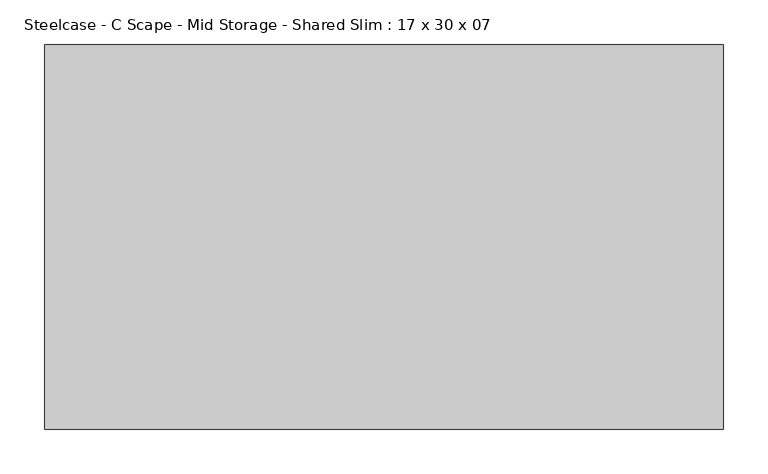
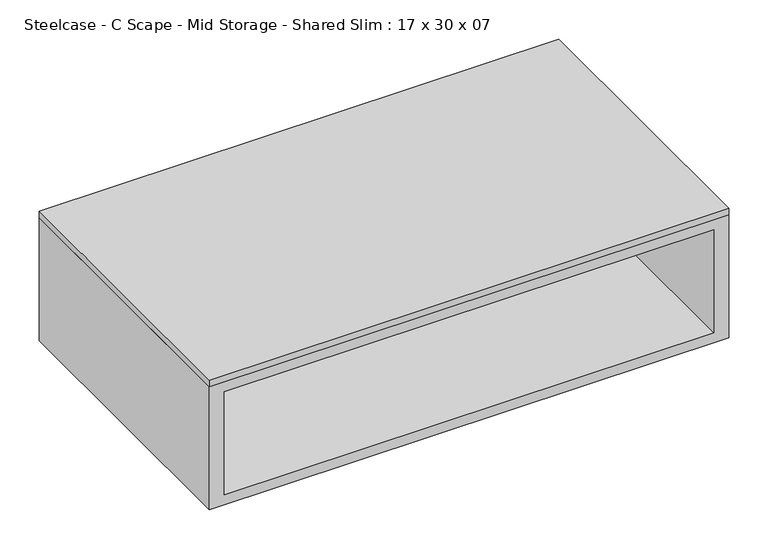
"""IFC4 building model written with IfcOpenShell, lengths in millimetres: furniture geometry, Steelcase - C Scape - Mid Storage - Shared Slim : 17 x 30 x 07."""

from ifc_helpers import new_model, si_unit, frame, origin, place, context, project, spatial, polyline, outline, extrude, source, transform, mapped, element, save


def steelcase_c_scape_mid_storage_shared_slim_17_x_30_x_07_a375069e(model_context):
    return source(origin(), model_context, "Body", "SweptSolid", [
        extrude(outline(polyline([(762.0, 215.9), (762.0, -215.9), (0.0, -215.9), (0.0, 215.9), (762.0, 215.9)])), frame((0.0, 0.0, 1028.7), z_axis=(0.0, 0.0, 1.0), x_axis=(1.0, 0.0, 0.0)), (0.0, 0.0, 1.0), 10.16),
        extrude(outline(polyline([(739.902, 3.1751841), (739.902, -3.1744283), (21.9711633, -3.1744283), (21.9711633, 3.1751841), (739.902, 3.1751841)])), frame((0.0, 0.0, 853.4399855), z_axis=(0.0, 0.0, 1.0), x_axis=(1.0, 0.0, 0.0)), (0.0, 0.0, 1.0), 160.0200145),
        extrude(outline(polyline([(1028.7, 762.0), (1028.7, 0.0), (838.2, 0.0), (838.2, 762.0), (1028.7, 762.0)]), holes=[polyline([(1013.46, 739.902), (853.4399855, 739.902), (853.4399855, 21.9711633), (1013.46, 21.9711633), (1013.46, 739.902)])]), frame((0.0, -215.9, 0.0), z_axis=(0.0, 1.0, 0.0), x_axis=(0.0, 0.0, 1.0)), (0.0, 0.0, 1.0), 431.8),
    ])


if __name__ == "__main__":
    model = new_model("IFC4")
    model_context = context("Model", 3, world=origin())
    ifc_project = project(units=[si_unit("LENGTHUNIT", "METRE", prefix="MILLI")], contexts=[model_context])
    site = spatial("IfcSite", under=ifc_project)
    building = spatial("IfcBuilding", under=site)
    placement = place(None, origin())
    steelcase_c_scape_mid_storage_shared_slim_17_x_30_x_07_shape = steelcase_c_scape_mid_storage_shared_slim_17_x_30_x_07_a375069e(model_context)
    element("IfcFurniture", 1, ObjectType="Steelcase - C Scape - Mid Storage - Shared Slim : 17 x 30 x 07", at=placement, inside=building, context=model_context, shape_type="MappedRepresentation", body=[
        mapped(steelcase_c_scape_mid_storage_shared_slim_17_x_30_x_07_shape, transform((0.0, 0.0, 0.0), x_axis=(1.0, 0.0, 0.0), y_axis=(0.0, 1.0, 0.0), z_axis=(0.0, 0.0, 1.0))),
    ])
    save(model, "model.ifc")
